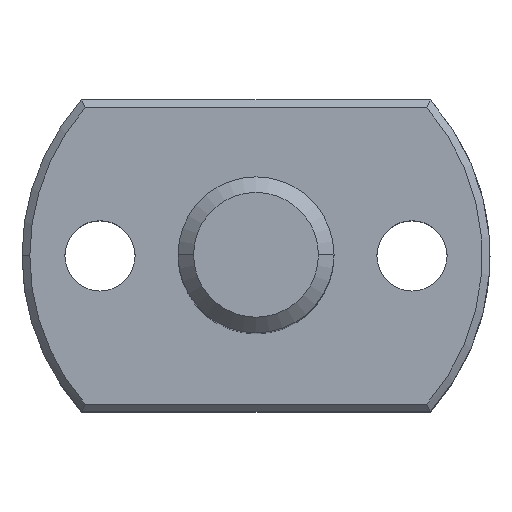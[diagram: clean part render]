
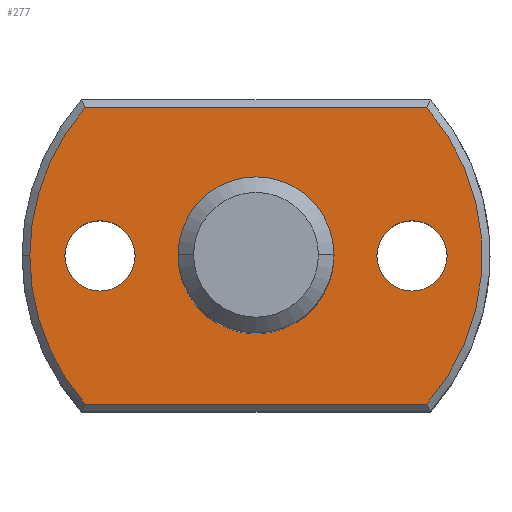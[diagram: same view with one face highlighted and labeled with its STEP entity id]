
A CAD part, top view. The second image highlights one B-rep face of the part: STEP entity #277.
In plain terms, the highlighted planar face has unit normal (0, 0, 1).
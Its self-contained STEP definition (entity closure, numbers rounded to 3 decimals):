
#8 = DIRECTION ( 'NONE',  ( 1., 0., 0. ) ) ;
#12 = VERTEX_POINT ( 'NONE', #570 ) ;
#15 = CARTESIAN_POINT ( 'NONE',  ( -10.954, 9.5, 7. ) ) ;
#19 = CIRCLE ( 'NONE', #480, 14.5 ) ;
#33 = CARTESIAN_POINT ( 'NONE',  ( 12.25, 0., 7. ) ) ;
#37 = AXIS2_PLACEMENT_3D ( 'NONE', #669, #599, #435 ) ;
#39 = EDGE_LOOP ( 'NONE', ( #532, #364, #718, #181, #196 ) ) ;
#51 = CARTESIAN_POINT ( 'NONE',  ( 0., 0., 7. ) ) ;
#55 = CARTESIAN_POINT ( 'NONE',  ( -7.75, 0., 7. ) ) ;
#56 = VERTEX_POINT ( 'NONE', #335 ) ;
#57 = DIRECTION ( 'NONE',  ( 1., 0., 0. ) ) ;
#69 = CIRCLE ( 'NONE', #274, 14.5 ) ;
#92 = EDGE_CURVE ( 'NONE', #314, #684, #399, .T. ) ;
#109 = DIRECTION ( 'NONE',  ( 1., 0., 0. ) ) ;
#115 = ORIENTED_EDGE ( 'NONE', *, *, #92, .F. ) ;
#121 = EDGE_CURVE ( 'NONE', #563, #56, #19, .T. ) ;
#129 = VERTEX_POINT ( 'NONE', #637 ) ;
#135 = CARTESIAN_POINT ( 'NONE',  ( -10.954, -9.5, 7. ) ) ;
#136 = LINE ( 'NONE', #503, #604 ) ;
#160 = VERTEX_POINT ( 'NONE', #464 ) ;
#161 = DIRECTION ( 'NONE',  ( 0., 0., 1. ) ) ;
#181 = ORIENTED_EDGE ( 'NONE', *, *, #121, .T. ) ;
#183 = VERTEX_POINT ( 'NONE', #646 ) ;
#189 = AXIS2_PLACEMENT_3D ( 'NONE', #642, #709, #57 ) ;
#196 = ORIENTED_EDGE ( 'NONE', *, *, #690, .T. ) ;
#198 = ORIENTED_EDGE ( 'NONE', *, *, #465, .F. ) ;
#208 = DIRECTION ( 'NONE',  ( 1., 0., 0. ) ) ;
#216 = EDGE_CURVE ( 'NONE', #129, #414, #645, .T. ) ;
#219 = PLANE ( 'NONE',  #781 ) ;
#232 = CARTESIAN_POINT ( 'NONE',  ( 11.18, -9.5, 7. ) ) ;
#239 = DIRECTION ( 'NONE',  ( 1., 0., 0. ) ) ;
#247 = EDGE_CURVE ( 'NONE', #522, #160, #634, .T. ) ;
#268 = EDGE_LOOP ( 'NONE', ( #708, #198 ) ) ;
#273 = DIRECTION ( 'NONE',  ( 0., 0., 1. ) ) ;
#274 = AXIS2_PLACEMENT_3D ( 'NONE', #671, #741, #547 ) ;
#277 = ADVANCED_FACE ( 'NONE', ( #295, #622, #606, #484 ), #219, .T. ) ;
#284 = CARTESIAN_POINT ( 'NONE',  ( -10., 0., 7. ) ) ;
#288 = DIRECTION ( 'NONE',  ( 1., 0., 0. ) ) ;
#290 = DIRECTION ( 'NONE',  ( 0., 0., 1. ) ) ;
#295 = FACE_OUTER_BOUND ( 'NONE', #39, .T. ) ;
#296 = ORIENTED_EDGE ( 'NONE', *, *, #216, .F. ) ;
#308 = EDGE_CURVE ( 'NONE', #684, #314, #398, .T. ) ;
#314 = VERTEX_POINT ( 'NONE', #55 ) ;
#321 = EDGE_CURVE ( 'NONE', #183, #12, #460, .T. ) ;
#324 = CARTESIAN_POINT ( 'NONE',  ( -12.25, 0., 7. ) ) ;
#335 = CARTESIAN_POINT ( 'NONE',  ( 10.954, 9.5, 7. ) ) ;
#344 = DIRECTION ( 'NONE',  ( 1., 0., 0. ) ) ;
#361 = AXIS2_PLACEMENT_3D ( 'NONE', #284, #710, #344 ) ;
#364 = ORIENTED_EDGE ( 'NONE', *, *, #380, .T. ) ;
#373 = VECTOR ( 'NONE', #8, 1000. ) ;
#377 = EDGE_LOOP ( 'NONE', ( #463, #296 ) ) ;
#379 = DIRECTION ( 'NONE',  ( -1., 0., 0. ) ) ;
#380 = EDGE_CURVE ( 'NONE', #160, #430, #69, .T. ) ;
#382 = LINE ( 'NONE', #232, #373 ) ;
#398 = CIRCLE ( 'NONE', #743, 2.25 ) ;
#399 = CIRCLE ( 'NONE', #361, 2.25 ) ;
#414 = VERTEX_POINT ( 'NONE', #33 ) ;
#415 = CARTESIAN_POINT ( 'NONE',  ( 10., 0., 7. ) ) ;
#417 = AXIS2_PLACEMENT_3D ( 'NONE', #479, #290, #109 ) ;
#420 = DIRECTION ( 'NONE',  ( 0., 0., 1. ) ) ;
#429 = CARTESIAN_POINT ( 'NONE',  ( 10.954, -9.5, 7. ) ) ;
#430 = VERTEX_POINT ( 'NONE', #135 ) ;
#435 = DIRECTION ( 'NONE',  ( 1., 0., 0. ) ) ;
#460 = CIRCLE ( 'NONE', #37, 5. ) ;
#463 = ORIENTED_EDGE ( 'NONE', *, *, #472, .F. ) ;
#464 = CARTESIAN_POINT ( 'NONE',  ( -14.5, 0., 7. ) ) ;
#465 = EDGE_CURVE ( 'NONE', #12, #183, #534, .T. ) ;
#472 = EDGE_CURVE ( 'NONE', #414, #129, #737, .T. ) ;
#479 = CARTESIAN_POINT ( 'NONE',  ( 0., 0., 7. ) ) ;
#480 = AXIS2_PLACEMENT_3D ( 'NONE', #774, #273, #208 ) ;
#484 = FACE_BOUND ( 'NONE', #377, .T. ) ;
#490 = AXIS2_PLACEMENT_3D ( 'NONE', #415, #420, #650 ) ;
#503 = CARTESIAN_POINT ( 'NONE',  ( -11.18, 9.5, 7. ) ) ;
#509 = AXIS2_PLACEMENT_3D ( 'NONE', #702, #161, #288 ) ;
#522 = VERTEX_POINT ( 'NONE', #15 ) ;
#532 = ORIENTED_EDGE ( 'NONE', *, *, #247, .T. ) ;
#534 = CIRCLE ( 'NONE', #509, 5. ) ;
#536 = DIRECTION ( 'NONE',  ( 1., 0., 0. ) ) ;
#547 = DIRECTION ( 'NONE',  ( 1., 0., 0. ) ) ;
#563 = VERTEX_POINT ( 'NONE', #429 ) ;
#570 = CARTESIAN_POINT ( 'NONE',  ( 5., 0., 7. ) ) ;
#575 = EDGE_LOOP ( 'NONE', ( #115, #580 ) ) ;
#580 = ORIENTED_EDGE ( 'NONE', *, *, #308, .F. ) ;
#582 = EDGE_CURVE ( 'NONE', #430, #563, #382, .T. ) ;
#599 = DIRECTION ( 'NONE',  ( 0., 0., 1. ) ) ;
#604 = VECTOR ( 'NONE', #379, 1000. ) ;
#606 = FACE_BOUND ( 'NONE', #575, .T. ) ;
#608 = CARTESIAN_POINT ( 'NONE',  ( -10., 0., 7. ) ) ;
#622 = FACE_BOUND ( 'NONE', #268, .T. ) ;
#634 = CIRCLE ( 'NONE', #417, 14.5 ) ;
#637 = CARTESIAN_POINT ( 'NONE',  ( 7.75, 0., 7. ) ) ;
#642 = CARTESIAN_POINT ( 'NONE',  ( 10., 0., 7. ) ) ;
#645 = CIRCLE ( 'NONE', #490, 2.25 ) ;
#646 = CARTESIAN_POINT ( 'NONE',  ( -5., 0., 7. ) ) ;
#650 = DIRECTION ( 'NONE',  ( 1., 0., 0. ) ) ;
#659 = DIRECTION ( 'NONE',  ( 0., 0., 1. ) ) ;
#669 = CARTESIAN_POINT ( 'NONE',  ( 0., 0., 7. ) ) ;
#671 = CARTESIAN_POINT ( 'NONE',  ( 0., 0., 7. ) ) ;
#684 = VERTEX_POINT ( 'NONE', #324 ) ;
#690 = EDGE_CURVE ( 'NONE', #56, #522, #136, .T. ) ;
#702 = CARTESIAN_POINT ( 'NONE',  ( 0., 0., 7. ) ) ;
#708 = ORIENTED_EDGE ( 'NONE', *, *, #321, .F. ) ;
#709 = DIRECTION ( 'NONE',  ( 0., 0., 1. ) ) ;
#710 = DIRECTION ( 'NONE',  ( 0., 0., 1. ) ) ;
#718 = ORIENTED_EDGE ( 'NONE', *, *, #582, .T. ) ;
#726 = DIRECTION ( 'NONE',  ( 0., 0., 1. ) ) ;
#737 = CIRCLE ( 'NONE', #189, 2.25 ) ;
#741 = DIRECTION ( 'NONE',  ( 0., 0., 1. ) ) ;
#743 = AXIS2_PLACEMENT_3D ( 'NONE', #608, #726, #239 ) ;
#774 = CARTESIAN_POINT ( 'NONE',  ( 0., 0., 7. ) ) ;
#781 = AXIS2_PLACEMENT_3D ( 'NONE', #51, #659, #536 ) ;
